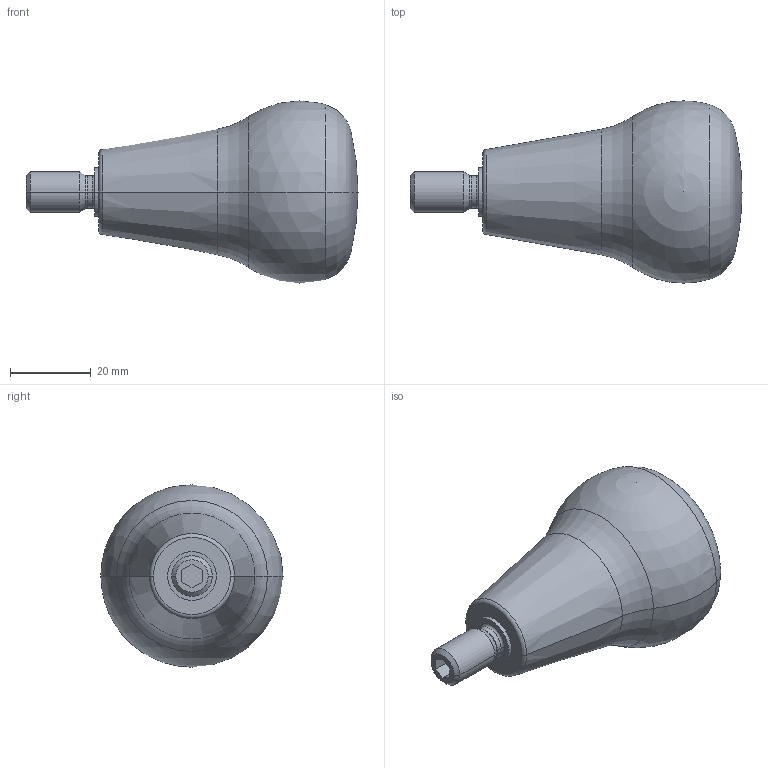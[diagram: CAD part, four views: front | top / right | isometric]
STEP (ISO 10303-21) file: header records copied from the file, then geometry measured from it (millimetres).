
FILE_DESCRIPTION (( 'STEP AP214' ), '1' );
FILE_NAME ('597.1-45-64-M10.step', '2019-05-20T07:12:42', ( 'user' ), ( '' ), 'SwSTEP 2.0', 'SolidWorks 2019', '' );
FILE_SCHEMA (( 'AUTOMOTIVE_DESIGN' ));
Length unit declared in the file: millimetre
Products named in the file (1): 597.1-45-64-M10
Bounding box: 82 x 45 x 45 mm (x, y, z)
Volume: 59686.9 mm3; surface area: 8771.8 mm2
Topology: 1 solids, 1 shells, 36 faces, 79 edges, 46 vertices
Faces by surface type: torus 10, plane 10, cone 6, cylinder 6, sphere 4
Entity records: 1204 total; most frequent: DIRECTION 192, CARTESIAN_POINT 154, ORIENTED_EDGE 148, AXIS2_PLACEMENT_3D 81, EDGE_CURVE 74, CIRCLE 44, VERTEX_POINT 43, EDGE_LOOP 39
